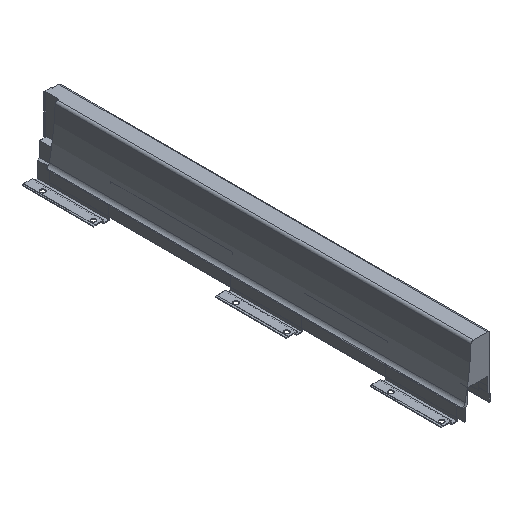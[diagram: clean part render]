
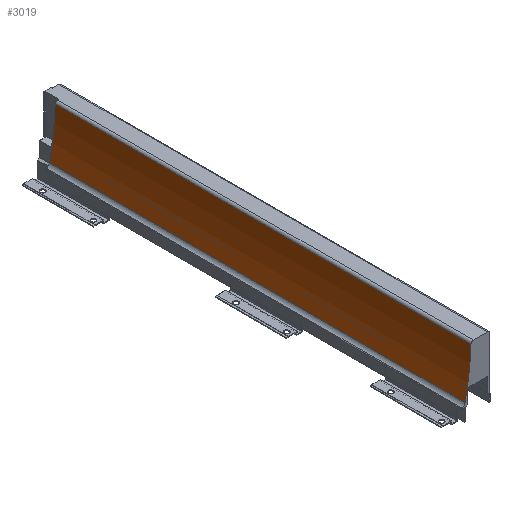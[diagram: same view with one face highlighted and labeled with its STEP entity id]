
A CAD part, isometric view. The second image highlights one B-rep face of the part: STEP entity #3019.
In plain terms, the highlighted cylindrical face has radius 350 mm (diameter 700 mm), a partial arc.
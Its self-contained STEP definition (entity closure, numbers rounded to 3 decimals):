
#281 = DIRECTION ( 'NONE',  ( 0., -1., 0. ) ) ;
#284 = DIRECTION ( 'NONE',  ( 1., 0., 0. ) ) ;
#289 = CARTESIAN_POINT ( 'NONE',  ( -369.661, 540., 58.879 ) ) ;
#537 = EDGE_CURVE ( 'NONE', #2524, #2558, #1708, .T. ) ;
#621 = EDGE_CURVE ( 'NONE', #2559, #2558, #1797, .T. ) ;
#641 = AXIS2_PLACEMENT_3D ( 'NONE', #3578, #3580, #3581 ) ;
#653 = EDGE_CURVE ( 'NONE', #2525, #2559, #1833, .T. ) ;
#744 = EDGE_CURVE ( 'NONE', #2525, #2524, #2139, .T. ) ;
#870 = AXIS2_PLACEMENT_3D ( 'NONE', #3785, #3786, #3787 ) ;
#1144 = CARTESIAN_POINT ( 'NONE',  ( -27.28, 523.8, -13.751 ) ) ;
#1145 = CARTESIAN_POINT ( 'NONE',  ( -19.877, 523.8, 46.603 ) ) ;
#1175 = CARTESIAN_POINT ( 'NONE',  ( -27.28, 0., -13.751 ) ) ;
#1176 = CARTESIAN_POINT ( 'NONE',  ( -19.877, 0., 46.603 ) ) ;
#1474 = CYLINDRICAL_SURFACE ( 'NONE', #2508, 350. ) ;
#1494 = FACE_OUTER_BOUND ( 'NONE', #4274, .T. ) ;
#1708 = LINE ( 'NONE', #2438, #1709 ) ;
#1709 = VECTOR ( 'NONE', #2439, 1000. ) ;
#1797 = CIRCLE ( 'NONE', #641, 350. ) ;
#1833 = LINE ( 'NONE', #3624, #1834 ) ;
#1834 = VECTOR ( 'NONE', #3625, 1000. ) ;
#1999 = ORIENTED_EDGE ( 'NONE', *, *, #653, .F. ) ;
#2139 = CIRCLE ( 'NONE', #870, 350. ) ;
#2438 = CARTESIAN_POINT ( 'NONE',  ( -27.28, 540., -13.751 ) ) ;
#2439 = DIRECTION ( 'NONE',  ( 0., -1., 0. ) ) ;
#2508 = AXIS2_PLACEMENT_3D ( 'NONE', #289, #281, #284 ) ;
#2524 = VERTEX_POINT ( 'NONE', #1144 ) ;
#2525 = VERTEX_POINT ( 'NONE', #1145 ) ;
#2558 = VERTEX_POINT ( 'NONE', #1175 ) ;
#2559 = VERTEX_POINT ( 'NONE', #1176 ) ;
#3019 = ADVANCED_FACE ( 'NONE', ( #1494 ), #1474, .F. ) ;
#3578 = CARTESIAN_POINT ( 'NONE',  ( -369.661, 0., 58.879 ) ) ;
#3580 = DIRECTION ( 'NONE',  ( 0., 1., 0. ) ) ;
#3581 = DIRECTION ( 'NONE',  ( -1., 0., 0. ) ) ;
#3624 = CARTESIAN_POINT ( 'NONE',  ( -19.877, 540., 46.603 ) ) ;
#3625 = DIRECTION ( 'NONE',  ( 0., -1., 0. ) ) ;
#3785 = CARTESIAN_POINT ( 'NONE',  ( -369.661, 523.8, 58.879 ) ) ;
#3786 = DIRECTION ( 'NONE',  ( 0., 1., 0. ) ) ;
#3787 = DIRECTION ( 'NONE',  ( -1., 0., 0. ) ) ;
#4167 = ORIENTED_EDGE ( 'NONE', *, *, #621, .F. ) ;
#4168 = ORIENTED_EDGE ( 'NONE', *, *, #537, .T. ) ;
#4169 = ORIENTED_EDGE ( 'NONE', *, *, #744, .T. ) ;
#4274 = EDGE_LOOP ( 'NONE', ( #1999, #4169, #4168, #4167 ) ) ;
